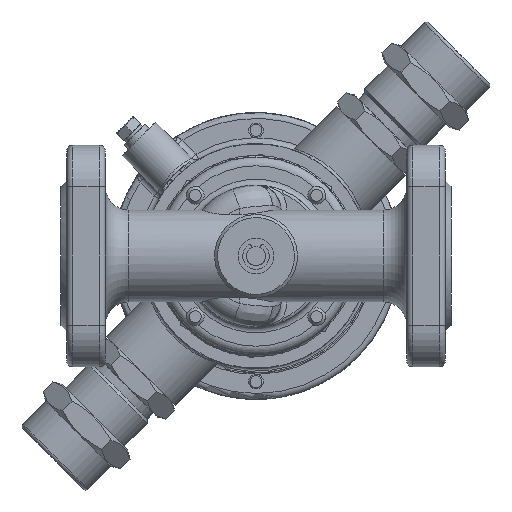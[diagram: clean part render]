
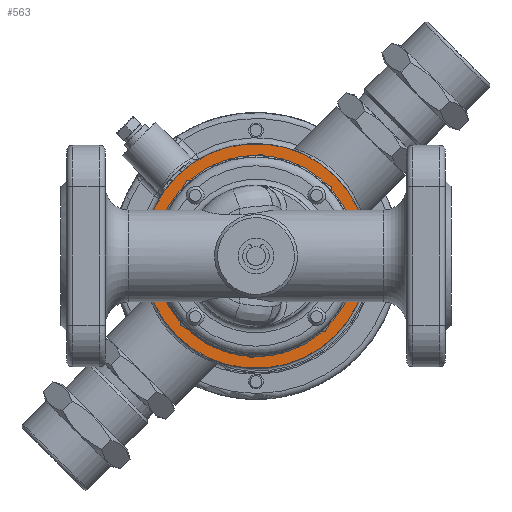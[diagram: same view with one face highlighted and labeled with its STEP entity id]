
A CAD part, front view. The second image highlights one B-rep face of the part: STEP entity #563.
In plain terms, the highlighted planar face has unit normal (0, -1, 0).
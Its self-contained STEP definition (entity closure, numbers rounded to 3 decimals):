
#563=ADVANCED_FACE('',(#9013,#9015,#9017,#9019),#9021,.T.);
#9013=FACE_BOUND('',#9014,.T.);
#9014=EDGE_LOOP('',(#24424));
#9015=FACE_BOUND('',#9016,.T.);
#9016=EDGE_LOOP('',(#24425));
#9017=FACE_BOUND('',#9018,.T.);
#9018=EDGE_LOOP('',(#24426));
#9019=FACE_OUTER_BOUND('',#9020,.T.);
#9020=EDGE_LOOP('',(#24427));
#9021=PLANE('',#9022);
#9022=AXIS2_PLACEMENT_3D('',#9023,#9024,#9025);
#9023=CARTESIAN_POINT('',(0.,124.,0.));
#9024=DIRECTION('',(0.,-1.,0.));
#9025=DIRECTION('',(0.707,0.,-0.707));
#24424=ORIENTED_EDGE('',*,*,#37388,.T.);
#24425=ORIENTED_EDGE('',*,*,#37386,.F.);
#24426=ORIENTED_EDGE('',*,*,#37389,.T.);
#24427=ORIENTED_EDGE('',*,*,#37390,.T.);
#37386=EDGE_CURVE('',#43083,#43083,#43085,.T.);
#37388=EDGE_CURVE('',#43088,#43088,#43089,.F.);
#37389=EDGE_CURVE('',#43090,#43090,#43091,.F.);
#37390=EDGE_CURVE('',#43092,#43092,#43093,.T.);
#43083=VERTEX_POINT('',#59614);
#43085=CIRCLE('',#59618,22.);
#43088=VERTEX_POINT('',#59627);
#43089=CIRCLE('',#59628,2.25);
#43090=VERTEX_POINT('',#59632);
#43091=CIRCLE('',#59633,2.25);
#43092=VERTEX_POINT('',#59637);
#43093=CIRCLE('',#59638,38.);
#59614=CARTESIAN_POINT('',(15.556,124.,-15.556));
#59618=AXIS2_PLACEMENT_3D('',#59619,#59620,#59621);
#59619=CARTESIAN_POINT('',(0.,124.,0.));
#59620=DIRECTION('',(0.,-1.,0.));
#59621=DIRECTION('',(0.707,0.,-0.707));
#59627=CARTESIAN_POINT('',(-22.097,124.,-22.097));
#59628=AXIS2_PLACEMENT_3D('',#59629,#59630,#59631);
#59629=CARTESIAN_POINT('',(-20.506,124.,-20.506));
#59630=DIRECTION('',(0.,-1.,0.));
#59631=DIRECTION('',(-0.707,0.,-0.707));
#59632=CARTESIAN_POINT('',(-22.097,124.,18.915));
#59633=AXIS2_PLACEMENT_3D('',#59634,#59635,#59636);
#59634=CARTESIAN_POINT('',(-20.506,124.,20.506));
#59635=DIRECTION('',(0.,-1.,0.));
#59636=DIRECTION('',(-0.707,0.,-0.707));
#59637=CARTESIAN_POINT('',(26.87,124.,-26.87));
#59638=AXIS2_PLACEMENT_3D('',#59639,#59640,#59641);
#59639=CARTESIAN_POINT('',(0.,124.,0.));
#59640=DIRECTION('',(0.,-1.,0.));
#59641=DIRECTION('',(0.707,0.,-0.707));
